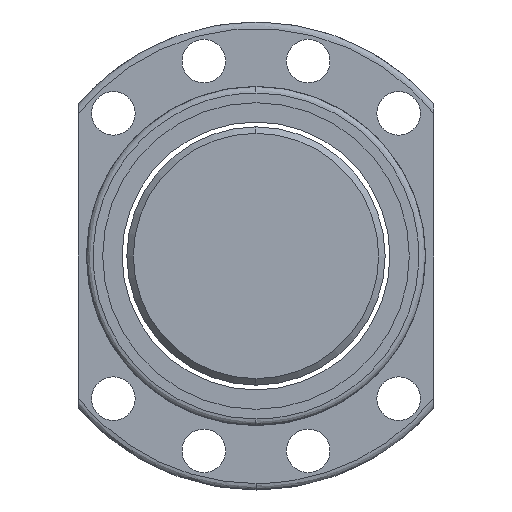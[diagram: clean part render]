
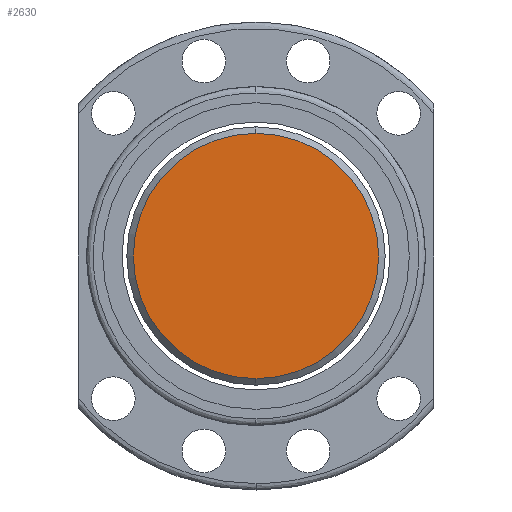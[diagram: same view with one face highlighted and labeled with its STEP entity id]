
A CAD part, left-side view. The second image highlights one B-rep face of the part: STEP entity #2630.
In plain terms, the highlighted planar face has unit normal (-1, 0, 0).
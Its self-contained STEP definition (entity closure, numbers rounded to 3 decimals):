
#766 = DIRECTION ( 'NONE',  ( 0., 0., -1. ) ) ;
#767 = DIRECTION ( 'NONE',  ( 1., 0., 0. ) ) ;
#768 = CARTESIAN_POINT ( 'NONE',  ( -232., 0., 0. ) ) ;
#770 = AXIS2_PLACEMENT_3D ( 'NONE', #768, #767, #766 ) ;
#776 = CIRCLE ( 'NONE', #770, 38. ) ;
#977 = CARTESIAN_POINT ( 'NONE',  ( -232., 0., 38. ) ) ;
#1007 = CIRCLE ( 'NONE', #1074, 38. ) ;
#1071 = DIRECTION ( 'NONE',  ( 0., 0., -1. ) ) ;
#1072 = DIRECTION ( 'NONE',  ( 1., 0., 0. ) ) ;
#1073 = CARTESIAN_POINT ( 'NONE',  ( -232., 0., 0. ) ) ;
#1074 = AXIS2_PLACEMENT_3D ( 'NONE', #1073, #1072, #1071 ) ;
#1091 = CARTESIAN_POINT ( 'NONE',  ( -232., 0., -38. ) ) ;
#1120 = PLANE ( 'NONE',  #1155 ) ;
#1154 = CARTESIAN_POINT ( 'NONE',  ( -232., 20., 0. ) ) ;
#1155 = AXIS2_PLACEMENT_3D ( 'NONE', #1154, #1238, #1237 ) ;
#1171 = FACE_OUTER_BOUND ( 'NONE', #2379, .T. ) ;
#1237 = DIRECTION ( 'NONE',  ( 0., 0., -1. ) ) ;
#1238 = DIRECTION ( 'NONE',  ( 1., 0., 0. ) ) ;
#2379 = EDGE_LOOP ( 'NONE', ( #2631, #2538 ) ) ;
#2400 = EDGE_CURVE ( 'NONE', #2555, #2536, #776, .T. ) ;
#2536 = VERTEX_POINT ( 'NONE', #977 ) ;
#2538 = ORIENTED_EDGE ( 'NONE', *, *, #2596, .F. ) ;
#2555 = VERTEX_POINT ( 'NONE', #1091 ) ;
#2596 = EDGE_CURVE ( 'NONE', #2536, #2555, #1007, .T. ) ;
#2630 = ADVANCED_FACE ( 'NONE', ( #1171 ), #1120, .F. ) ;
#2631 = ORIENTED_EDGE ( 'NONE', *, *, #2400, .F. ) ;
